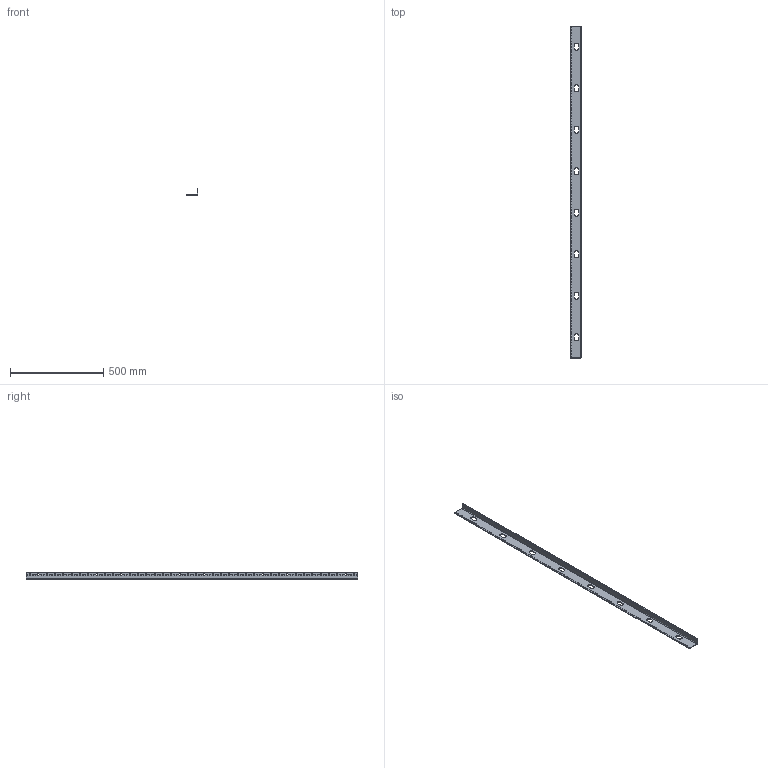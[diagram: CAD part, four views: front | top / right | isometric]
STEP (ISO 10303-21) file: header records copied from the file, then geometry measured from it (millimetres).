
FILE_DESCRIPTION((''),'2;1');
FILE_NAME('PWRR40','2016-05-04T',('bmann'),('Middle Atlantic Products'),'PRO/ENGINEER BY PARAMETRIC TECHNOLOGY CORPORATION, 2014310','PRO/ENGINEER BY PARAMETRIC TECHNOLOGY CORPORATION, 2014310','');
FILE_SCHEMA(('CONFIG_CONTROL_DESIGN'));
Length unit declared in the file: inch
Products named in the file (1): PWRR40
Bounding box: 63.78 x 1778 x 34.92 mm (x, y, z)
Volume: 490758.6 mm3; surface area: 336118 mm2
Topology: 1 solids, 1 shells, 526 faces, 1564 edges, 1040 vertices
Faces by surface type: cylinder 498, plane 28
Entity records: 19272 total; most frequent: DIRECTION 3612, CARTESIAN_POINT 3130, ORIENTED_EDGE 3128, EDGE_CURVE 1564, AXIS2_PLACEMENT_3D 1522, VERTEX_POINT 1040, EDGE_LOOP 1022, CIRCLE 996
